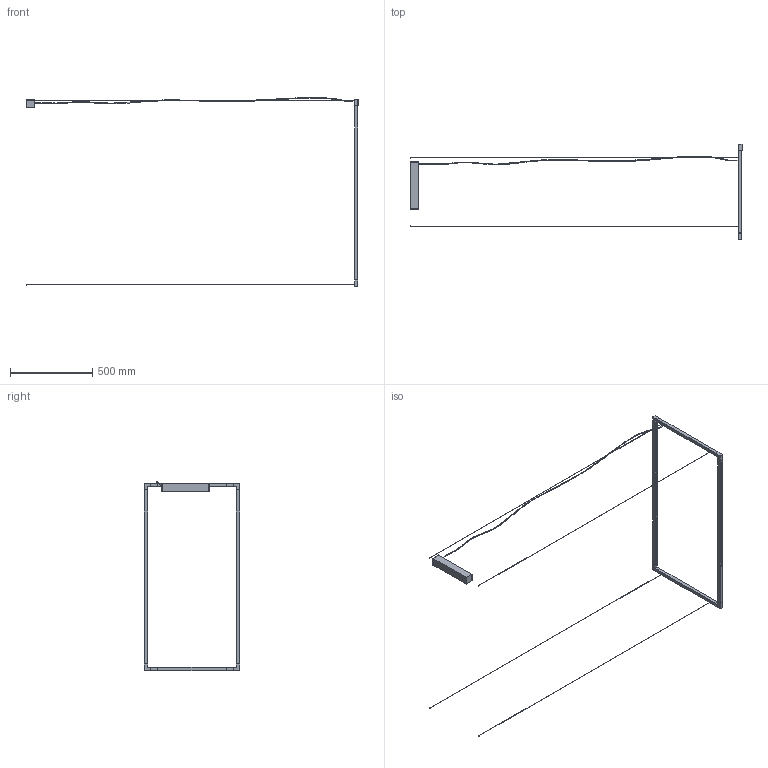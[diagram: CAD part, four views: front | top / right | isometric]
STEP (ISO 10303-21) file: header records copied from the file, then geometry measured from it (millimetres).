
FILE_DESCRIPTION (( 'STEP AP214' ), '1' );
FILE_NAME ('3D_SPIGOLO_H_PENDANT.STEP', '2018-04-09T13:44:00', ( 'Utente' ), ( '' ), 'SwSTEP 2.0', 'SolidWorks 2016', '' );
FILE_SCHEMA (( 'AUTOMOTIVE_DESIGN' ));
Length unit declared in the file: millimetre
Products named in the file (5): Group3^3D_SPIGOLO_H_PENDANT; Group2^3D_SPIGOLO_H_PENDANT; Group1^3D_SPIGOLO_H_PENDANT; 3D_SPIGOLO_H_PENDANT; Group5^3D_SPIGOLO_H_PENDANT
Assembly tree (4 placements, depth 2):
  3D_SPIGOLO_H_PENDANT
    Group1^3D_SPIGOLO_H_PENDANT
    Group2^3D_SPIGOLO_H_PENDANT
    Group3^3D_SPIGOLO_H_PENDANT
    Group5^3D_SPIGOLO_H_PENDANT
Bounding box: 2024 x 582 x 1152.27 mm (x, y, z)
Volume: 2104272.8 mm3; surface area: 492744.9 mm2
Topology: 15 solids, 15 shells, 163 faces, 370 edges, 244 vertices
Faces by surface type: plane 131, cylinder 26, torus 4, bspline 2
Entity records: 5829 total; most frequent: CARTESIAN_POINT 1804, DIRECTION 768, ORIENTED_EDGE 740, EDGE_CURVE 370, LINE 304, VECTOR 304, VERTEX_POINT 244, AXIS2_PLACEMENT_3D 232
